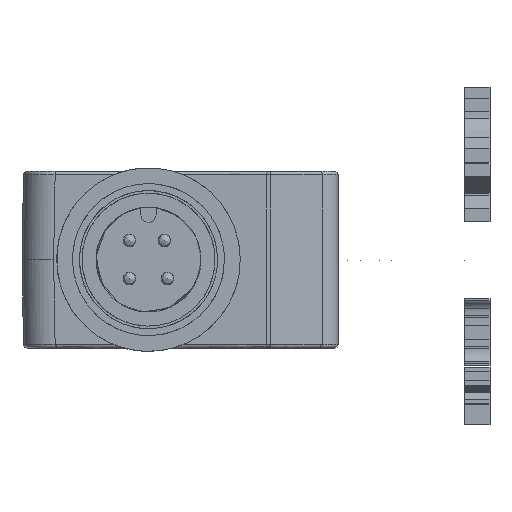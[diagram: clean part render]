
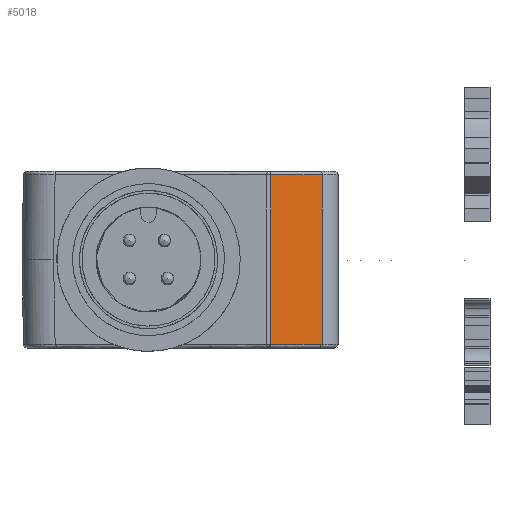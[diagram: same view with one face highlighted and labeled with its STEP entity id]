
A CAD part, front view. The second image highlights one B-rep face of the part: STEP entity #5018.
In plain terms, the highlighted free-form (B-spline) face has degree [1, 1] with [2, 2] control points.
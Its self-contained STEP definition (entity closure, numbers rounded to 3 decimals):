
#729=B_SPLINE_CURVE_WITH_KNOTS('',1,(#21748,#21749),.UNSPECIFIED.,.F.,.F.,
(2,2),(0.,1.),.UNSPECIFIED.);
#5018=ADVANCED_FACE('',(#5670),#5271,.T.);
#5271=B_SPLINE_SURFACE_WITH_KNOTS('',1,1,((#21750,#21751),(#21752,#21753)),
 .UNSPECIFIED.,.F.,.F.,.F.,(2,2),(2,2),(0.,1.),(0.,1.),.UNSPECIFIED.);
#5670=FACE_OUTER_BOUND('',#6175,.T.);
#6175=EDGE_LOOP('',(#8306,#8307,#8308,#8309));
#8306=ORIENTED_EDGE('',*,*,#10176,.F.);
#8307=ORIENTED_EDGE('',*,*,#10282,.T.);
#8308=ORIENTED_EDGE('',*,*,#10222,.F.);
#8309=ORIENTED_EDGE('',*,*,#10171,.F.);
#9115=VERTEX_POINT('',#20819);
#9116=VERTEX_POINT('',#20823);
#9120=VERTEX_POINT('',#20858);
#9147=VERTEX_POINT('',#21338);
#10171=EDGE_CURVE('',#9116,#9115,#10665,.T.);
#10176=EDGE_CURVE('',#9120,#9116,#10668,.T.);
#10222=EDGE_CURVE('',#9115,#9147,#10712,.T.);
#10282=EDGE_CURVE('',#9120,#9147,#729,.T.);
#10665=(
BOUNDED_CURVE()
B_SPLINE_CURVE(1,(#20824,#20825),.UNSPECIFIED.,.F.,.F.)
B_SPLINE_CURVE_WITH_KNOTS((2,2),(0.,1.),.UNSPECIFIED.)
CURVE()
GEOMETRIC_REPRESENTATION_ITEM()
RATIONAL_B_SPLINE_CURVE((1.,1.))
REPRESENTATION_ITEM('')
);
#10668=(
BOUNDED_CURVE()
B_SPLINE_CURVE(1,(#20859,#20860),.UNSPECIFIED.,.F.,.F.)
B_SPLINE_CURVE_WITH_KNOTS((2,2),(0.,1.),.UNSPECIFIED.)
CURVE()
GEOMETRIC_REPRESENTATION_ITEM()
RATIONAL_B_SPLINE_CURVE((1.,1.))
REPRESENTATION_ITEM('')
);
#10712=(
BOUNDED_CURVE()
B_SPLINE_CURVE(1,(#21336,#21337),.UNSPECIFIED.,.F.,.F.)
B_SPLINE_CURVE_WITH_KNOTS((2,2),(0.,1.),.UNSPECIFIED.)
CURVE()
GEOMETRIC_REPRESENTATION_ITEM()
RATIONAL_B_SPLINE_CURVE((1.,1.))
REPRESENTATION_ITEM('')
);
#20819=CARTESIAN_POINT('',(-8.065,36.63,-6.99));
#20823=CARTESIAN_POINT('',(-8.065,36.63,6.41));
#20824=CARTESIAN_POINT('',(-8.065,36.63,6.41));
#20825=CARTESIAN_POINT('',(-8.065,36.63,-6.99));
#20858=CARTESIAN_POINT('',(-12.127,36.002,6.41));
#20859=CARTESIAN_POINT('',(-12.127,36.002,6.41));
#20860=CARTESIAN_POINT('',(-8.065,36.63,6.41));
#21336=CARTESIAN_POINT('',(-8.065,36.63,-6.99));
#21337=CARTESIAN_POINT('',(-12.127,36.002,-6.99));
#21338=CARTESIAN_POINT('',(-12.127,36.002,-6.99));
#21748=CARTESIAN_POINT('',(-12.127,36.002,6.41));
#21749=CARTESIAN_POINT('',(-12.127,36.002,-6.99));
#21750=CARTESIAN_POINT('',(-12.294,35.977,-7.29));
#21751=CARTESIAN_POINT('',(-12.294,35.977,7.431));
#21752=CARTESIAN_POINT('',(-6.794,36.827,-7.29));
#21753=CARTESIAN_POINT('',(-6.794,36.827,7.431));
